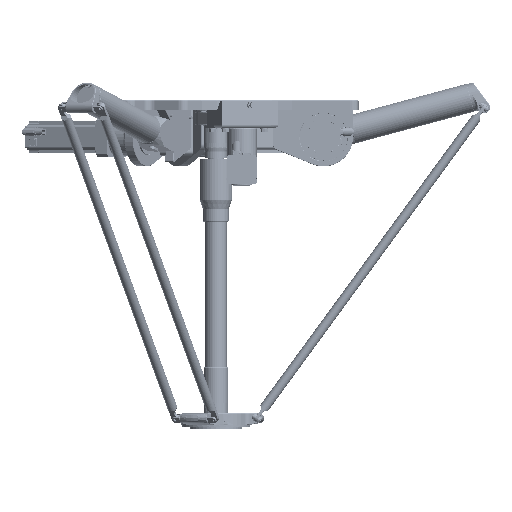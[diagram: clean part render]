
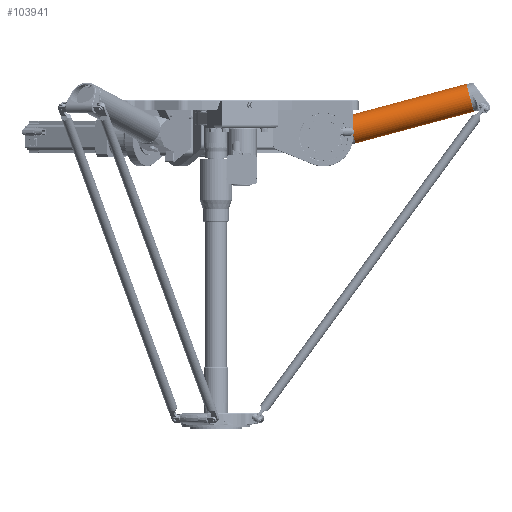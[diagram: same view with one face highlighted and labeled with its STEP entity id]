
A CAD part, front view. The second image highlights one B-rep face of the part: STEP entity #103941.
In plain terms, the highlighted cylindrical face has radius 44 mm (diameter 88 mm), a full revolution.
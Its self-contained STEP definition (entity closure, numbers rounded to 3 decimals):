
#10325 = DIRECTION ( 'NONE',  ( 0.966, 0., 0.259 ) ) ;
#15673 = CARTESIAN_POINT ( 'NONE',  ( 418.838, 43., -68.328 ) ) ;
#18258 = EDGE_LOOP ( 'NONE', ( #144129 ) ) ;
#18927 = CARTESIAN_POINT ( 'NONE',  ( 416.422, 0., -59.319 ) ) ;
#21877 = CYLINDRICAL_SURFACE ( 'NONE', #61809, 44. ) ;
#24657 = DIRECTION ( 'NONE',  ( -0.259, 0., 0.966 ) ) ;
#38284 = CIRCLE ( 'NONE', #111518, 44. ) ;
#42108 = CARTESIAN_POINT ( 'NONE',  ( 767.22, 0., 80.329 ) ) ;
#46177 = EDGE_CURVE ( 'NONE', #68188, #69891, #166124, .T. ) ;
#46353 = ORIENTED_EDGE ( 'NONE', *, *, #87611, .T. ) ;
#49037 = DIRECTION ( 'NONE',  ( -0.966, 0., -0.259 ) ) ;
#50732 = DIRECTION ( 'NONE',  ( -0.259, 0., 0.966 ) ) ;
#54237 = CARTESIAN_POINT ( 'NONE',  ( 416.422, 0., -59.319 ) ) ;
#54978 = CARTESIAN_POINT ( 'NONE',  ( 418.838, -43., -68.328 ) ) ;
#60473 = AXIS2_PLACEMENT_3D ( 'NONE', #109903, #10325, #24657 ) ;
#61809 = AXIS2_PLACEMENT_3D ( 'NONE', #161214, #49037, #77596 ) ;
#66254 = DIRECTION ( 'NONE',  ( -0.966, 0., -0.259 ) ) ;
#68188 = VERTEX_POINT ( 'NONE', #136288 ) ;
#69891 = VERTEX_POINT ( 'NONE', #155960 ) ;
#73264 = VERTEX_POINT ( 'NONE', #42108 ) ;
#76784 = DIRECTION ( 'NONE',  ( 0.966, 0., 0.259 ) ) ;
#77596 = DIRECTION ( 'NONE',  ( -0.259, 0., 0.966 ) ) ;
#81250 = DIRECTION ( 'NONE',  ( -0.259, 0., 0.966 ) ) ;
#82177 = DIRECTION ( 'NONE',  ( -0.259, 0., 0.966 ) ) ;
#85907 = AXIS2_PLACEMENT_3D ( 'NONE', #54237, #95252, #82177 ) ;
#87611 = EDGE_CURVE ( 'NONE', #148334, #68188, #130656, .T. ) ;
#94162 = ORIENTED_EDGE ( 'NONE', *, *, #169872, .T. ) ;
#94921 = DIRECTION ( 'NONE',  ( 0.966, 0., 0.259 ) ) ;
#95252 = DIRECTION ( 'NONE',  ( 0.966, 0., 0.259 ) ) ;
#103941 = ADVANCED_FACE ( 'NONE', ( #111194, #115601 ), #21877, .T. ) ;
#109903 = CARTESIAN_POINT ( 'NONE',  ( 416.422, 0., -59.319 ) ) ;
#111152 = VERTEX_POINT ( 'NONE', #54978 ) ;
#111194 = FACE_OUTER_BOUND ( 'NONE', #18258, .T. ) ;
#111518 = AXIS2_PLACEMENT_3D ( 'NONE', #166719, #94921, #81250 ) ;
#112871 = AXIS2_PLACEMENT_3D ( 'NONE', #165932, #66254, #50732 ) ;
#114726 = ORIENTED_EDGE ( 'NONE', *, *, #144205, .T. ) ;
#115601 = FACE_OUTER_BOUND ( 'NONE', #128713, .T. ) ;
#115950 = ORIENTED_EDGE ( 'NONE', *, *, #46177, .T. ) ;
#128713 = EDGE_LOOP ( 'NONE', ( #114726, #46353, #115950, #94162 ) ) ;
#130656 = CIRCLE ( 'NONE', #60473, 44. ) ;
#136288 = CARTESIAN_POINT ( 'NONE',  ( 414.005, 43., -50.31 ) ) ;
#144129 = ORIENTED_EDGE ( 'NONE', *, *, #169906, .T. ) ;
#144205 = EDGE_CURVE ( 'NONE', #111152, #148334, #38284, .T. ) ;
#148334 = VERTEX_POINT ( 'NONE', #15673 ) ;
#155960 = CARTESIAN_POINT ( 'NONE',  ( 414.005, -43., -50.31 ) ) ;
#161214 = CARTESIAN_POINT ( 'NONE',  ( 597.52, 0., -10.744 ) ) ;
#165932 = CARTESIAN_POINT ( 'NONE',  ( 778.619, 0., 37.831 ) ) ;
#166124 = CIRCLE ( 'NONE', #85907, 44. ) ;
#166719 = CARTESIAN_POINT ( 'NONE',  ( 416.422, 0., -59.319 ) ) ;
#169872 = EDGE_CURVE ( 'NONE', #69891, #111152, #176782, .T. ) ;
#169906 = EDGE_CURVE ( 'NONE', #73264, #73264, #172287, .T. ) ;
#172287 = CIRCLE ( 'NONE', #112871, 44. ) ;
#174755 = DIRECTION ( 'NONE',  ( -0.259, 0., 0.966 ) ) ;
#176304 = AXIS2_PLACEMENT_3D ( 'NONE', #18927, #76784, #174755 ) ;
#176782 = CIRCLE ( 'NONE', #176304, 44. ) ;
